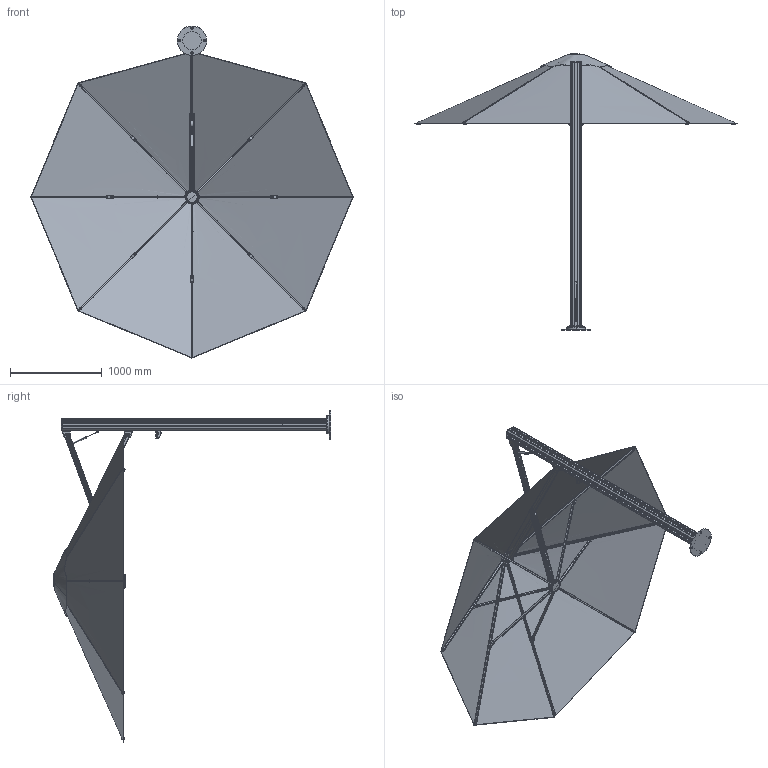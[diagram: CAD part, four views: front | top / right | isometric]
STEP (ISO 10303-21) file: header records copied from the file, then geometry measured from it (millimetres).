
FILE_DESCRIPTION (( 'STEP AP203' ), '1' );
FILE_NAME ('Unity 3.5M Octagonal Uno.STEP', '2020-06-18T22:39:01', ( '' ), ( '' ), 'SwSTEP 2.0', 'SolidWorks 2017', '' );
FILE_SCHEMA (( 'CONFIG_CONTROL_DESIGN' ));
Length unit declared in the file: millimetre
Products named in the file (48): SMP_UM - 110197; flat washer regular_am_B18.22M - Plain washer, 6 mm, regular; SMP_UM - 110094; SMP_UM - 110080; SMP_UM - 210019; SMP_UM - 110093; SMP_UM - 110175; SMP_UM - 110070; SMP_UM - 110196; SMP_UM - 110174; SMP_UM - 110208; SMP_UM - 110092; SMP_UM - 110126 (2); Unity 3.5M Octagonal Uno; SMP_UM - 110085; SMP_UM - 110131; SMP_UM - 110066; SMP_UM - 010025_Canopy Only; SMP_UM - 110193; SMP_UM - 110173; SMP_UM - 110088; SMP_UM - 110313_Default<As Machined>; SMP_UM - 110102_Stretched; SMP_UM - 110222; SMP_UM - 110168; SMP_UM - 110194b; SMP_UM - 010262 _ 3.5 OCT; SMP_UM - 110084; SMP_UM - 110063; SMP_UM - 110075; SMP_UM - 110110; SMP_UM - 110194; SMP_UM - 110065; SMP_UM - 110069; SMP_UM - 110098; SMP_UM - 110117; SMP_UM - 110116; SMP_UM - 110064; SMP_UM - 110112_ALL HOLES; SMP_UM - 110123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
Assembly tree (67 placements, depth 4):
  Unity 3.5M Octagonal Uno
    SMP_UM - 110116
      SMP_UM - 110112_ALL HOLES
    SMP_UM - 110123
      SMP_UM - 110313_Default<As Machined>
    SMP_UM - 110222
    SMP_UM - 110126 (2)
    SMP_UM - 110117
    SMP_UM - 110065  x2
      SMP_UM - 110070
      SMP_UM - 110069
    SMP_UM - 010025_Canopy Only
      SMP_UM - 110173
        SMP_UM - 110193
        SMP_UM - 110080  x2
      SMP_UM - 110174
        SMP_UM - 110194b
        SMP_UM - 110194
        SMP_UM - 110084
        socket button head cap screw_am_B18.3.4M - 5 x 0.8 x 16 SBHCS --N
        flat washer regular_am_B18.22M - Plain washer, 5 mm, regular
        SMP_UM - 110085  x2
      SMP_UM - 110064
        SMP_UM - 110092
      SMP_UM - 110063
        SMP_UM - 110092
        SMP_UM - 110093
        SMP_UM - 110094
        SMP_UM - 110110
      SMP_UM - 110208  x7
        SMP_UM - 110196
        SMP_UM - 110089
        SMP_UM - 210019
        SMP_UM - 110088
        flat washer regular_am_B18.22M - Plain washer, 6 mm, regular
        socket button head cap screw_am_B18.3.4M - 5 x 0.8 x 20 SBHCS --N
        SMP_UM - 110131
      SMP_UM - 110175  x7
        SMP_UM - 110197
        SMP_UM - 110089
      SMP_UM - 110066
        SMP_UM - 110098
        SMP_UM - 110075
        SMP_UM - 110096_PD
        SMP_UM - 110102_Stretched
      SMP_UM - 110095  x2
      SMP_UM - 210044 - Gastec Spring_Extended
      SMP_UM - 110168
        SMP_UM - 110075
        SMP_UM - 110079
      SMP_UM - 010262 _ 3.5 OCT
Bounding box: 3507.77 x 3017.95 x 3614.88 mm (x, y, z)
Volume: 45451763.9 mm3; surface area: 25470885.6 mm2
Topology: 103 solids, 108 shells, 1958 faces, 4760 edges, 3021 vertices
Faces by surface type: plane 665, cylinder 614, cone 322, bspline 251, torus 84, sphere 22
Entity records: 87373 total; most frequent: CARTESIAN_POINT 59551, ORIENTED_EDGE 4870, DIRECTION 4375, EDGE_CURVE 2436, AXIS2_PLACEMENT_3D 1712, VERTEX_POINT 1530, EDGE_LOOP 1045, ADVANCED_FACE 997
